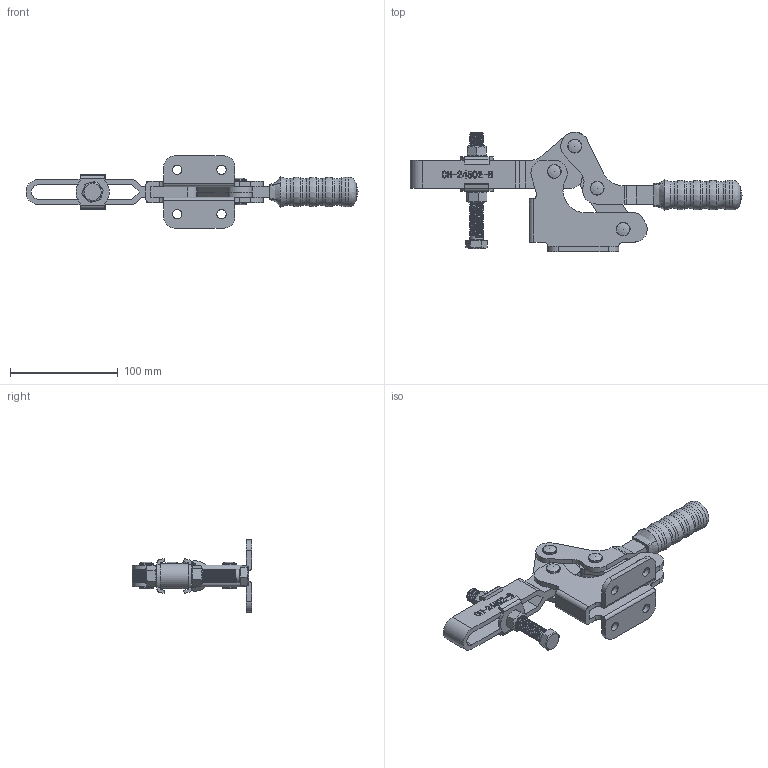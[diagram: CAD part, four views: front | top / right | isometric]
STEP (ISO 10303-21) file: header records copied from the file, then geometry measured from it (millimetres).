
FILE_DESCRIPTION(/* description */ ('STEP AP203'),/* implementation_level */ '2;1');
FILE_NAME(/* name */ 'E:\STRONA\Horizontal toggle clamp\CH-24502-B\CH-24502-B_ZAMKNIETY.stp',/* time_stamp */ '2019-01-15T17:00:02+01:00',/* author */ ('Admin'),/* organization */ ('·L?¤¤?'),/* preprocessor_version */ 'ST-DEVELOPER v17.2',/* originating_system */ 'Autodesk Inventor 2019',/* authorisation */ '');
FILE_SCHEMA (('AUTOMOTIVE_DESIGN { 1 0 10303 214 3 1 1 }'));
Length unit declared in the file: millimetre
Products named in the file (11): CH-24502-B_ZAMKNIETY; CH-24502-B-06___; CH-SA-121017___; FW120___; CH-24502-B-02___; CH-24502-B-01___; CH-24502-B-05___; CH-24502-B-03___; M12___; CH-24502-B-04___; 101-J-06___
Assembly tree (17 placements, depth 2):
  CH-24502-B_ZAMKNIETY
    FW120___  x2
    CH-24502-B-06___
    CH-24502-B-05___  x4
    101-J-06___  x2
    CH-SA-121017___
    M12___  x2
    CH-24502-B-02___
    CH-24502-B-01___
    CH-24502-B-03___
    CH-24502-B-04___  x2
Bounding box: 308.32 x 111 x 67 mm (x, y, z)
Volume: 220767.1 mm3; surface area: 106042.9 mm2
Topology: 17 solids, 17 shells, 731 faces, 2064 edges, 1397 vertices
Faces by surface type: plane 313, bspline 213, cylinder 156, cone 28, torus 21
Full cylindrical faces by diameter (mm): 3.271 x1, 4.268 x1, 8.7 x4, 9.4 x4, 9.5 x14, 10.5 x8, 12.7 x50, 12.8 x8, 13 x2, 27.301 x1
Entity records: 56560 total; most frequent: CARTESIAN_POINT 40803, ORIENTED_EDGE 3624, DIRECTION 2472, EDGE_CURVE 1812, VERTEX_POINT 1224, LINE 986, VECTOR 986, AXIS2_PLACEMENT_3D 743
